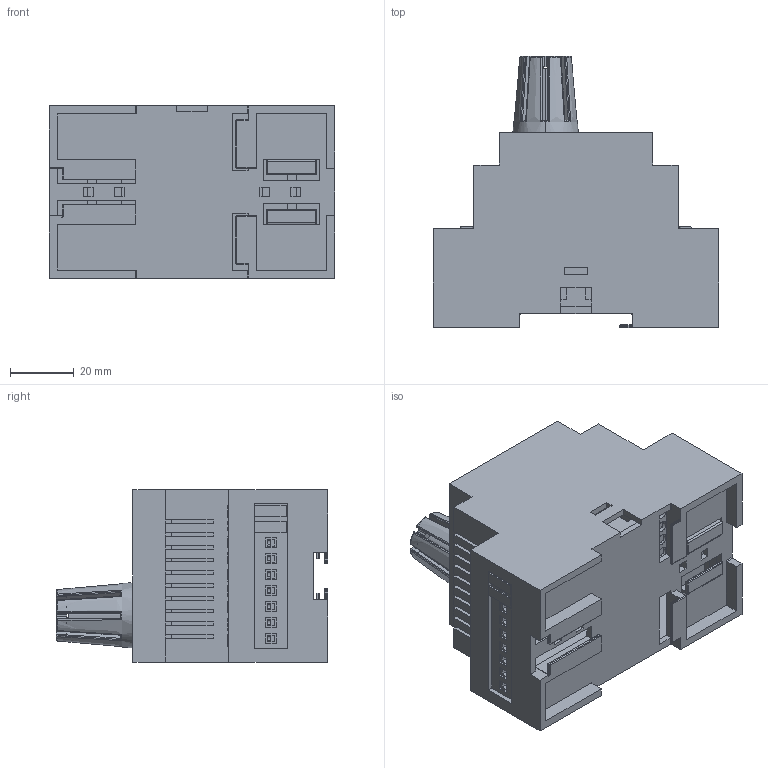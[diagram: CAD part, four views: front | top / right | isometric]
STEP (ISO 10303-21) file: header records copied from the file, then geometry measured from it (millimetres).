
FILE_DESCRIPTION (( 'STEP AP214' ), '1' );
FILE_NAME ('CMA-004-1.STEP', '2026-05-13T02:23:24', ( '' ), ( '' ), 'SwSTEP 2.0', 'SolidWorks 2022', '' );
FILE_SCHEMA (( 'AUTOMOTIVE_DESIGN' ));
Length unit declared in the file: millimetre
Products named in the file (1): CMA-004-1
Bounding box: 89.5 x 85 x 54 mm (x, y, z)
Volume: 49595.2 mm3; surface area: 59877.7 mm2
Topology: 26 solids, 26 shells, 1917 faces, 5220 edges, 3443 vertices
Faces by surface type: plane 1305, bspline 296, cylinder 258, torus 33, sphere 21, cone 4
Entity records: 77543 total; most frequent: CARTESIAN_POINT 27165, ORIENTED_EDGE 10398, DIRECTION 8418, EDGE_CURVE 5199, LINE 3874, VECTOR 3874, VERTEX_POINT 3443, AXIS2_PLACEMENT_3D 2272
